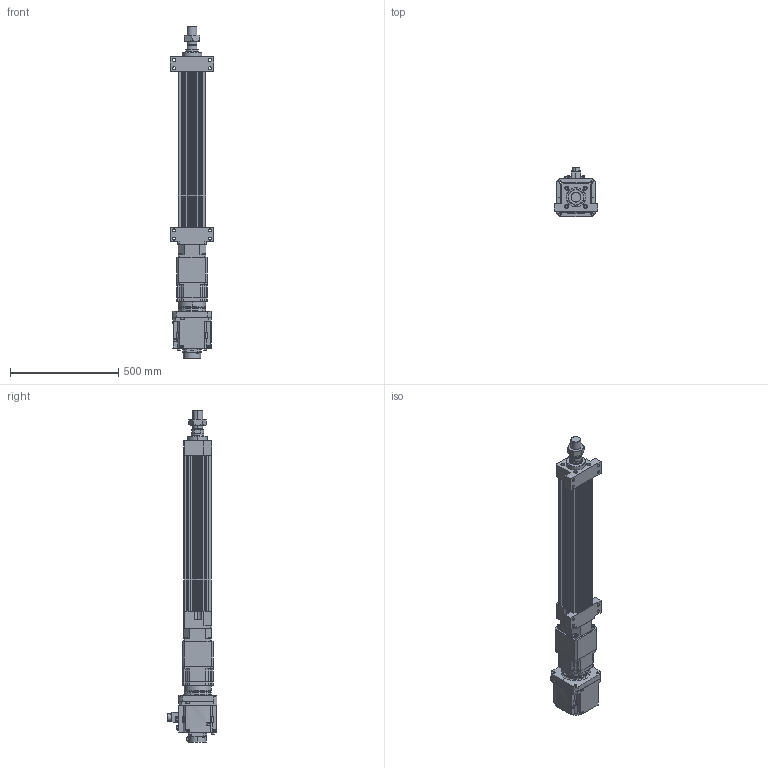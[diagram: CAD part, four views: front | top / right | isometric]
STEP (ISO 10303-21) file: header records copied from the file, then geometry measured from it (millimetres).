
FILE_DESCRIPTION (( 'STEP AP203' ), '1' );
FILE_NAME ('HES130NS(FS)(HS)-S500-W020G00-M-FFB.STEP', '2026-06-10T06:16:37', ( 'tms' ), ( '' ), 'SwSTEP 2.0', 'SolidWorks 2013', '' );
FILE_SCHEMA (( 'CONFIG_CONTROL_DESIGN' ));
Length unit declared in the file: millimetre
Products named in the file (9): HES130-FFB-500; M45X1.5P; HES130-M-ROD-500; HES130NS(FS)(HS)-S500-W020G00-M-FFB; AB1421; HES130-S-G142; AB1423; AB1422; HG-SR202B
Assembly tree (8 placements, depth 2):
  HES130NS(FS)(HS)-S500-W020G00-M-FFB
    HES130-FFB-500
    HES130-M-ROD-500
    M45X1.5P
    HES130-S-G142
    AB1421
    AB1422
    AB1423
    HG-SR202B
Bounding box: 200 x 228.85 x 1535 mm (x, y, z)
Volume: 14480841.9 mm3; surface area: 1760441.5 mm2
Topology: 5 solids, 19 shells, 1547 faces, 4010 edges, 2610 vertices
Faces by surface type: cylinder 694, plane 619, cone 152, bspline 76, torus 6
Entity records: 56386 total; most frequent: CARTESIAN_POINT 16969, DIRECTION 8246, ORIENTED_EDGE 7946, EDGE_CURVE 3995, AXIS2_PLACEMENT_3D 3104, VERTEX_POINT 2610, VECTOR 2038, LINE 2038
